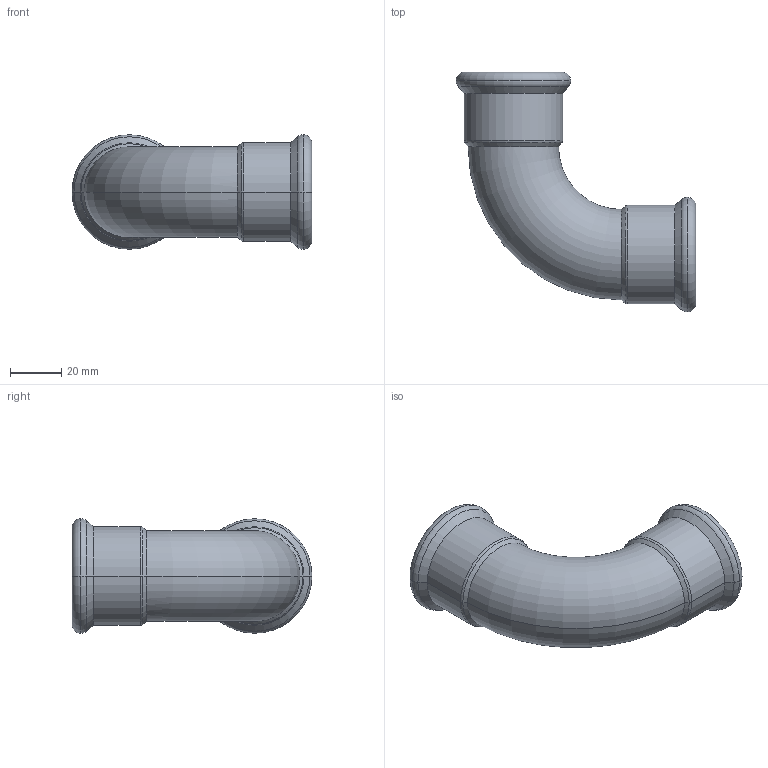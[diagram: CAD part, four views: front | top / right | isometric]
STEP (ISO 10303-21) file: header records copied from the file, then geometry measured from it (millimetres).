
FILE_DESCRIPTION(('CoCreate Modeling STEP Export'),'2;1');
FILE_NAME('C1408 35x35.stp','2014-11-07T16:44:47',(''),(''),'CoCreate Modeling STEP processor for AP214 (Solid Model)','CoCreate Modeling 17.00A 17-Jun-2010 (C) Parametric Technology GmbH','');
FILE_SCHEMA(('AUTOMOTIVE_DESIGN { 1 0 10303 214 1 1 1 1 }'));
Length unit declared in the file: millimetre
Products named in the file (2): C1408_35x35
Assembly tree (1 placements, depth 2):
  C1408_35x35
    C1408_35x35
Bounding box: 93.28 x 93.28 x 44.55 mm (x, y, z)
Volume: 26362.3 mm3; surface area: 29210.3 mm2
Topology: 1 solids, 1 shells, 46 faces, 94 edges, 54 vertices
Faces by surface type: cylinder 16, torus 16, cone 8, plane 6
Entity records: 1627 total; most frequent: CARTESIAN_POINT 746, ORIENTED_EDGE 188, DIRECTION 162, EDGE_CURVE 94, AXIS2_PLACEMENT_3D 69, VERTEX_POINT 54, EDGE_LOOP 52, FACE_OUTER_BOUND 46
